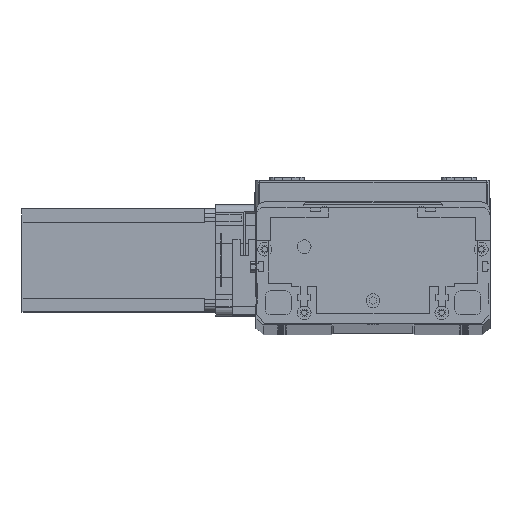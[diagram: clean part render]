
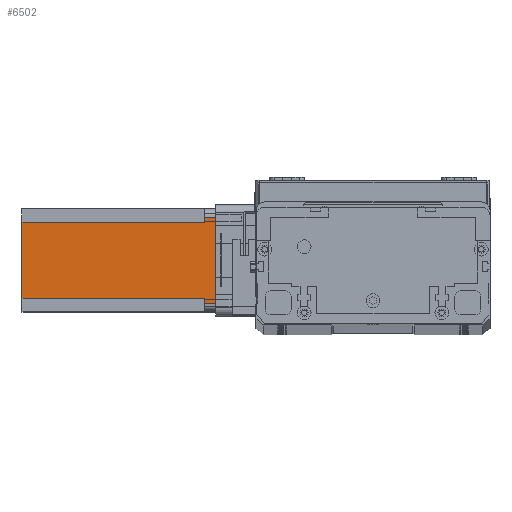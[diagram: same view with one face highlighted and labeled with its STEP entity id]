
A CAD part, top view. The second image highlights one B-rep face of the part: STEP entity #6502.
In plain terms, the highlighted planar face has unit normal (0, 0, 1) as drawn and (0, -1, 0) by its records, which use the part's own axes.
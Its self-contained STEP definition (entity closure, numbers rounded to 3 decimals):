
#523 = VECTOR ( 'NONE', #23579, 1000. ) ;
#590 = FACE_OUTER_BOUND ( 'NONE', #6429, .T. ) ;
#1195 = DIRECTION ( 'NONE',  ( 0., 0., 1. ) ) ;
#1279 = ORIENTED_EDGE ( 'NONE', *, *, #18546, .T. ) ;
#1633 = VERTEX_POINT ( 'NONE', #9003 ) ;
#2161 = CARTESIAN_POINT ( 'NONE',  ( 52., 0., -112.5 ) ) ;
#2392 = ORIENTED_EDGE ( 'NONE', *, *, #19624, .F. ) ;
#2605 = EDGE_CURVE ( 'NONE', #2670, #16716, #3861, .T. ) ;
#2670 = VERTEX_POINT ( 'NONE', #12235 ) ;
#3372 = LINE ( 'NONE', #21538, #7175 ) ;
#3700 = CARTESIAN_POINT ( 'NONE',  ( 8., 0., -6.5 ) ) ;
#3861 = LINE ( 'NONE', #22991, #26242 ) ;
#4107 = ORIENTED_EDGE ( 'NONE', *, *, #20703, .T. ) ;
#4376 = AXIS2_PLACEMENT_3D ( 'NONE', #19558, #19527, #19503 ) ;
#4615 = LINE ( 'NONE', #13246, #20653 ) ;
#4638 = CARTESIAN_POINT ( 'NONE',  ( 55., 0., -6.5 ) ) ;
#4814 = ORIENTED_EDGE ( 'NONE', *, *, #18911, .T. ) ;
#4967 = ORIENTED_EDGE ( 'NONE', *, *, #21498, .F. ) ;
#5308 = VERTEX_POINT ( 'NONE', #3700 ) ;
#5555 = CARTESIAN_POINT ( 'NONE',  ( 8., 0., -112.5 ) ) ;
#6429 = EDGE_LOOP ( 'NONE', ( #7228, #1279, #11720, #4814, #2392, #17583, #4107, #4967 ) ) ;
#6467 = VECTOR ( 'NONE', #10070, 1000. ) ;
#6502 = ADVANCED_FACE ( 'NONE', ( #590 ), #19589, .T. ) ;
#7175 = VECTOR ( 'NONE', #10709, 1000. ) ;
#7228 = ORIENTED_EDGE ( 'NONE', *, *, #17801, .T. ) ;
#8037 = DIRECTION ( 'NONE',  ( 1., 0., 0. ) ) ;
#8439 = CARTESIAN_POINT ( 'NONE',  ( 0., 0., -112.5 ) ) ;
#8675 = DIRECTION ( 'NONE',  ( 0., 0., 1. ) ) ;
#9003 = CARTESIAN_POINT ( 'NONE',  ( 5., 0., -6.5 ) ) ;
#10070 = DIRECTION ( 'NONE',  ( 0., 0., -1. ) ) ;
#10227 = CARTESIAN_POINT ( 'NONE',  ( 52., 0., -6.5 ) ) ;
#10709 = DIRECTION ( 'NONE',  ( -1., 0., 0. ) ) ;
#11720 = ORIENTED_EDGE ( 'NONE', *, *, #2605, .F. ) ;
#12235 = CARTESIAN_POINT ( 'NONE',  ( 5., 0., 0. ) ) ;
#12326 = LINE ( 'NONE', #20784, #6467 ) ;
#13015 = VERTEX_POINT ( 'NONE', #23555 ) ;
#13246 = CARTESIAN_POINT ( 'NONE',  ( 52., 0., -112.5 ) ) ;
#13294 = LINE ( 'NONE', #10227, #24091 ) ;
#14240 = VERTEX_POINT ( 'NONE', #2161 ) ;
#15969 = DIRECTION ( 'NONE',  ( 1., 0., 0. ) ) ;
#16631 = LINE ( 'NONE', #8439, #523 ) ;
#16716 = VERTEX_POINT ( 'NONE', #19744 ) ;
#17583 = ORIENTED_EDGE ( 'NONE', *, *, #20541, .F. ) ;
#17801 = EDGE_CURVE ( 'NONE', #13015, #20896, #13294, .T. ) ;
#18419 = CARTESIAN_POINT ( 'NONE',  ( 8., 0., -112.5 ) ) ;
#18546 = EDGE_CURVE ( 'NONE', #20896, #16716, #27064, .T. ) ;
#18911 = EDGE_CURVE ( 'NONE', #2670, #1633, #12326, .T. ) ;
#19503 = DIRECTION ( 'NONE',  ( 0., 0., -1. ) ) ;
#19527 = DIRECTION ( 'NONE',  ( 0., -1., 0. ) ) ;
#19558 = CARTESIAN_POINT ( 'NONE',  ( 0., 0., -112.5 ) ) ;
#19589 = PLANE ( 'NONE',  #4376 ) ;
#19624 = EDGE_CURVE ( 'NONE', #5308, #1633, #3372, .T. ) ;
#19744 = CARTESIAN_POINT ( 'NONE',  ( 55., 0., 0. ) ) ;
#20027 = VECTOR ( 'NONE', #1195, 1000. ) ;
#20541 = EDGE_CURVE ( 'NONE', #22342, #5308, #25710, .T. ) ;
#20653 = VECTOR ( 'NONE', #24090, 1000. ) ;
#20703 = EDGE_CURVE ( 'NONE', #22342, #14240, #16631, .T. ) ;
#20784 = CARTESIAN_POINT ( 'NONE',  ( 5., 0., -112.5 ) ) ;
#20896 = VERTEX_POINT ( 'NONE', #4638 ) ;
#21464 = VECTOR ( 'NONE', #8675, 1000. ) ;
#21498 = EDGE_CURVE ( 'NONE', #13015, #14240, #4615, .T. ) ;
#21538 = CARTESIAN_POINT ( 'NONE',  ( 8., 0., -6.5 ) ) ;
#22342 = VERTEX_POINT ( 'NONE', #18419 ) ;
#22991 = CARTESIAN_POINT ( 'NONE',  ( 0., 0., 0. ) ) ;
#23555 = CARTESIAN_POINT ( 'NONE',  ( 52., 0., -6.5 ) ) ;
#23579 = DIRECTION ( 'NONE',  ( 1., 0., 0. ) ) ;
#23787 = CARTESIAN_POINT ( 'NONE',  ( 55., 0., -112.5 ) ) ;
#24090 = DIRECTION ( 'NONE',  ( 0., 0., -1. ) ) ;
#24091 = VECTOR ( 'NONE', #8037, 1000. ) ;
#25710 = LINE ( 'NONE', #5555, #20027 ) ;
#26242 = VECTOR ( 'NONE', #15969, 1000. ) ;
#27064 = LINE ( 'NONE', #23787, #21464 ) ;
